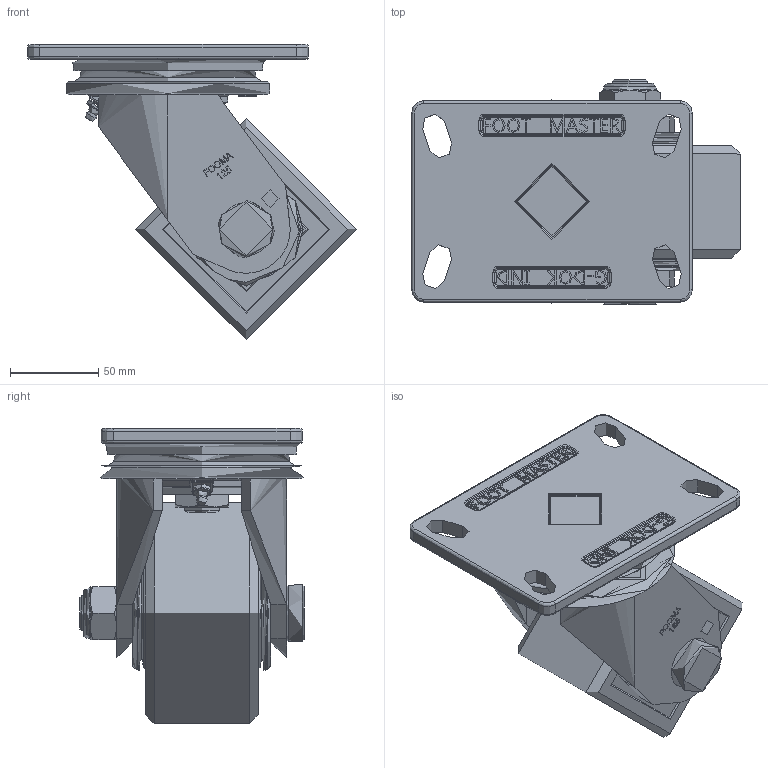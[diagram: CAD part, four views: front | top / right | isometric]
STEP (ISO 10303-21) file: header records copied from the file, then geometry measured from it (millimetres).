
FILE_DESCRIPTION(/* description */ (''),/* implementation_level */ '2;1');
FILE_NAME(/* name */ 'C:\Users\황치선\Desktop\JYS\4.DWG WORK\GF-SERIES 신규 홈페이지용 도면\GF-125-ASF-MCD\GF-125-ASF-MCD.stp',/* time_stamp */ '2019-08-29T19:25:08+09:00',/* author */ ('황치선'),/* organization */ (''),/* preprocessor_version */ 'ST-DEVELOPER v16.13',/* originating_system */ 'Autodesk Inventor 2018',/* authorisation */ '');
FILE_SCHEMA (('AUTOMOTIVE_DESIGN { 1 0 10303 214 3 1 1 }'));
Length unit declared in the file: millimetre
Products named in the file (1): GF-125-ASF-MCD
Bounding box: 186.2 x 127 x 167 mm (x, y, z)
Topology: 1 solids, 10 shells, 1266 faces, 3367 edges, 2139 vertices
Faces by surface type: plane 485, bspline 437, cylinder 192, torus 85, cone 59, sphere 8
Full cylindrical faces by diameter (mm): 6 x1, 10 x2, 20 x5, 20.2 x2, 24.9 x2, 30 x1, 32 x1, 32.334 x2, 39.666 x2, 59 x1, 64.519 x2, 115 x1, 125 x1
Entity records: 42570 total; most frequent: CARTESIAN_POINT 14147, ORIENTED_EDGE 6498, DIRECTION 4761, EDGE_CURVE 3247, VERTEX_POINT 2108, AXIS2_PLACEMENT_3D 1599, LINE 1563, VECTOR 1563
